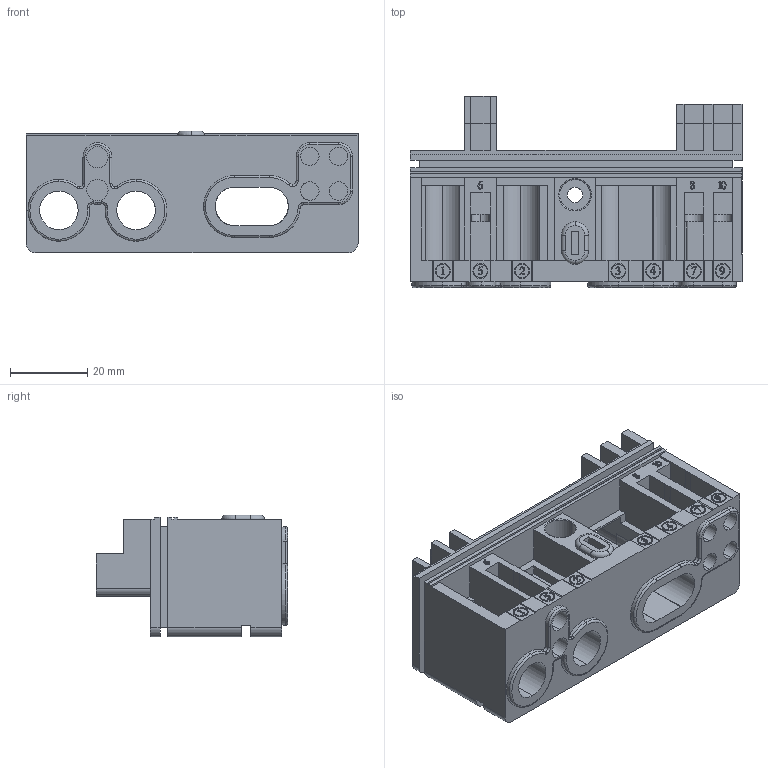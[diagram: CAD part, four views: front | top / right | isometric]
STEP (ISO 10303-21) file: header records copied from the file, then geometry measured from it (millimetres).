
FILE_DESCRIPTION (( 'STEP AP203' ), '1' );
FILE_NAME ('Êëåììíàÿ êîëîäêà_ÑÊÀÒ105.STEP', '2012-06-26T07:01:37', ( 'User' ), ( 'Computer' ), 'SwSTEP 2.0', 'SolidWorks 2012', '' );
FILE_SCHEMA (( 'CONFIG_CONTROL_DESIGN' ));
Length unit declared in the file: millimetre
Products named in the file (1): Êëåììíàÿ êîëîäêà_ÑÊÀÒ105
Bounding box: 86 x 49.5 x 31.5 mm (x, y, z)
Volume: 48911 mm3; surface area: 29316.3 mm2
Topology: 1 solids, 2 shells, 656 faces, 1781 edges, 1162 vertices
Faces by surface type: plane 346, cylinder 161, bspline 115, torus 34
Entity records: 25489 total; most frequent: CARTESIAN_POINT 9261, ORIENTED_EDGE 3562, DIRECTION 3036, EDGE_CURVE 1781, VERTEX_POINT 1162, VECTOR 1142, LINE 1142, AXIS2_PLACEMENT_3D 947
